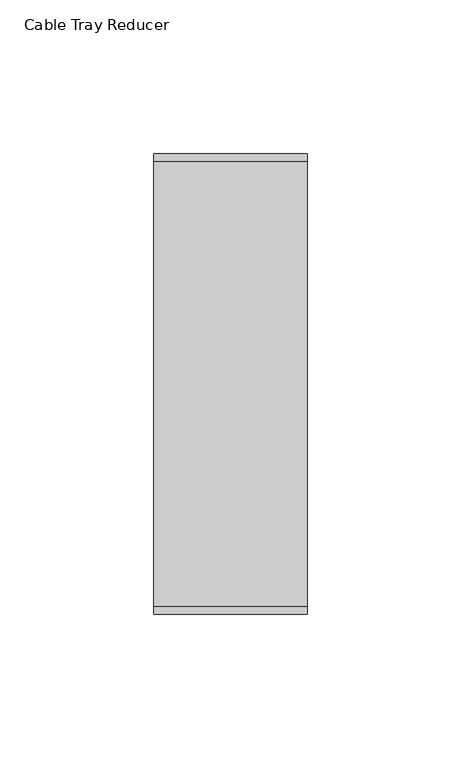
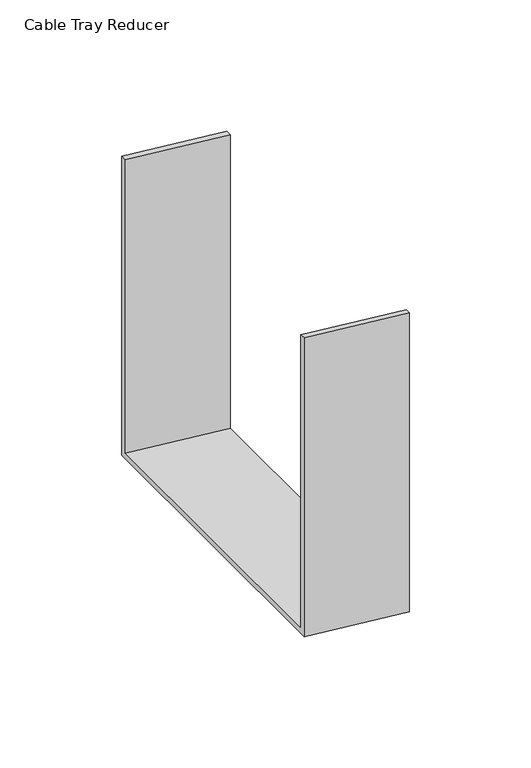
"""IFC4 building model written with IfcOpenShell, lengths in millimetres: cable carrier fitting geometry, Cable Tray Reducer : ELEC_ELV_TKG_N2402."""

from ifc_helpers import new_model, si_unit, origin, place, context, project, spatial, faceted_brep, source, transform, mapped, element, save


def cable_tray_reducer_20023c96(model_context):
    return source(origin(), model_context, "Body", "Brep", [
        faceted_brep([(50.0, -75.0002866, -79.9515959), (50.0, 74.9997134, -79.9515959), (50.0, 74.9997134, 70.0484041), (50.0, 72.4597134, 70.0484041), (50.0, 72.4597134, -77.4115959), (50.0, -72.4602866, -77.4115959), (50.0, -72.4602866, 70.0484041), (50.0, -75.0002866, 70.0484041), (0.0, -75.0, -75.0), (0.0, -75.0, 75.0), (0.0, -72.46, 75.0), (0.0, -72.46, -72.46), (0.0, 72.46, -72.46), (0.0, 72.46, 75.0), (0.0, 75.0, 75.0), (0.0, 75.0, -75.0)], [[[0, 1, 2, 3, 4, 5, 6, 7]], [[8, 9, 10, 11, 12, 13, 14, 15]], [[8, 15, 1, 0]], [[15, 14, 2, 1]], [[14, 13, 3, 2]], [[13, 12, 4, 3]], [[12, 11, 5, 4]], [[11, 10, 6, 5]], [[10, 9, 7, 6]], [[9, 8, 0, 7]]]),
    ])


if __name__ == "__main__":
    model = new_model("IFC4")
    model_context = context("Model", 3, world=origin())
    ifc_project = project(units=[si_unit("LENGTHUNIT", "METRE", prefix="MILLI")], contexts=[model_context])
    site = spatial("IfcSite", under=ifc_project)
    building = spatial("IfcBuilding", under=site)
    placement = place(None, origin())
    cable_tray_reducer_shape = cable_tray_reducer_20023c96(model_context)
    element("IfcCableCarrierFitting", 1, ObjectType="Cable Tray Reducer : ELEC_ELV_TKG_N2402", at=placement, inside=building, context=model_context, shape_type="MappedRepresentation", body=[
        mapped(cable_tray_reducer_shape, transform((0.0, 0.0, 0.0), x_axis=(1.0, 0.0, 0.0), y_axis=(0.0, 1.0, 0.0), z_axis=(0.0, 0.0, 1.0))),
    ])
    save(model, "model.ifc")
